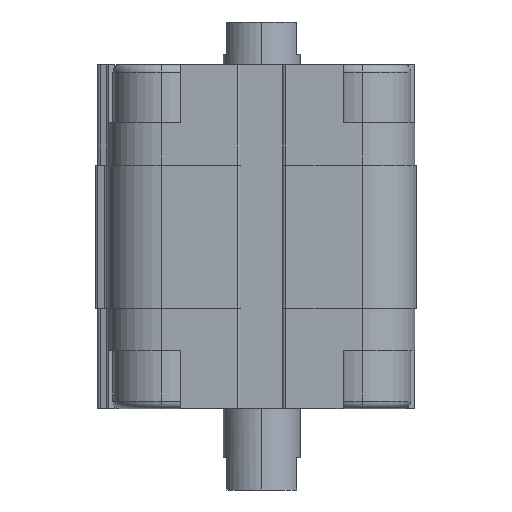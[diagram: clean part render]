
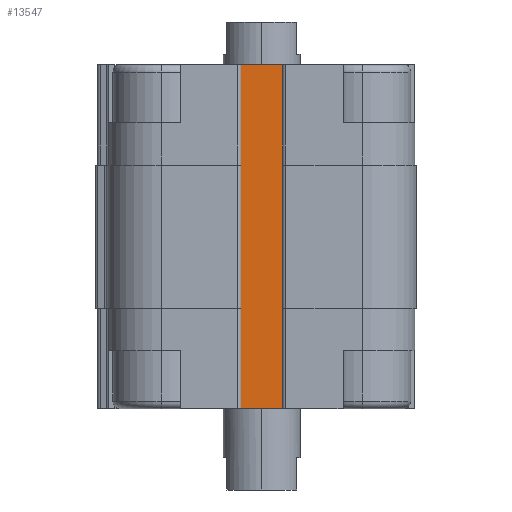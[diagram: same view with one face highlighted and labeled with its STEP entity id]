
A CAD part, left-side view. The second image highlights one B-rep face of the part: STEP entity #13547.
In plain terms, the highlighted planar face has unit normal (-1, 0, 0).
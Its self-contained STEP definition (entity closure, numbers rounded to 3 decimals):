
#537 = CARTESIAN_POINT ( 'NONE',  ( -15., -3., -13. ) ) ;
#999 = ORIENTED_EDGE ( 'NONE', *, *, #4904, .F. ) ;
#1387 = LINE ( 'NONE', #6837, #15934 ) ;
#1905 = DIRECTION ( 'NONE',  ( 0., -1., 0. ) ) ;
#3167 = VERTEX_POINT ( 'NONE', #15528 ) ;
#3756 = CARTESIAN_POINT ( 'NONE',  ( -15., -3., 0. ) ) ;
#4113 = DIRECTION ( 'NONE',  ( 0., 0., 1. ) ) ;
#4840 = CARTESIAN_POINT ( 'NONE',  ( -15., -3., -44.5 ) ) ;
#4904 = EDGE_CURVE ( 'NONE', #3167, #17091, #18434, .T. ) ;
#5171 = DIRECTION ( 'NONE',  ( 0., -1., 0. ) ) ;
#5259 = CARTESIAN_POINT ( 'NONE',  ( -15., 3., -44.5 ) ) ;
#5811 = ORIENTED_EDGE ( 'NONE', *, *, #15523, .T. ) ;
#6181 = EDGE_LOOP ( 'NONE', ( #999, #12123, #16082, #5811 ) ) ;
#6837 = CARTESIAN_POINT ( 'NONE',  ( -15., 3., -13. ) ) ;
#7064 = LINE ( 'NONE', #13147, #17147 ) ;
#7093 = VERTEX_POINT ( 'NONE', #4840 ) ;
#7893 = FACE_OUTER_BOUND ( 'NONE', #6181, .T. ) ;
#7990 = CARTESIAN_POINT ( 'NONE',  ( -15., 3., -13. ) ) ;
#8982 = VECTOR ( 'NONE', #17036, 1000. ) ;
#9294 = DIRECTION ( 'NONE',  ( -1., 0., 0. ) ) ;
#12123 = ORIENTED_EDGE ( 'NONE', *, *, #12917, .F. ) ;
#12391 = VERTEX_POINT ( 'NONE', #5259 ) ;
#12664 = AXIS2_PLACEMENT_3D ( 'NONE', #7990, #9294, #5171 ) ;
#12917 = EDGE_CURVE ( 'NONE', #12391, #3167, #1387, .T. ) ;
#13147 = CARTESIAN_POINT ( 'NONE',  ( -15., 3., -44.5 ) ) ;
#13547 = ADVANCED_FACE ( 'NONE', ( #7893 ), #16813, .T. ) ;
#13930 = CARTESIAN_POINT ( 'NONE',  ( -15., 3., 0. ) ) ;
#14503 = DIRECTION ( 'NONE',  ( 0., 0., 1. ) ) ;
#14780 = LINE ( 'NONE', #537, #17767 ) ;
#15523 = EDGE_CURVE ( 'NONE', #7093, #17091, #14780, .T. ) ;
#15528 = CARTESIAN_POINT ( 'NONE',  ( -15., 3., 0. ) ) ;
#15934 = VECTOR ( 'NONE', #4113, 1000. ) ;
#16082 = ORIENTED_EDGE ( 'NONE', *, *, #16427, .T. ) ;
#16427 = EDGE_CURVE ( 'NONE', #12391, #7093, #7064, .T. ) ;
#16813 = PLANE ( 'NONE',  #12664 ) ;
#17036 = DIRECTION ( 'NONE',  ( 0., -1., 0. ) ) ;
#17091 = VERTEX_POINT ( 'NONE', #3756 ) ;
#17147 = VECTOR ( 'NONE', #1905, 1000. ) ;
#17767 = VECTOR ( 'NONE', #14503, 1000. ) ;
#18434 = LINE ( 'NONE', #13930, #8982 ) ;
